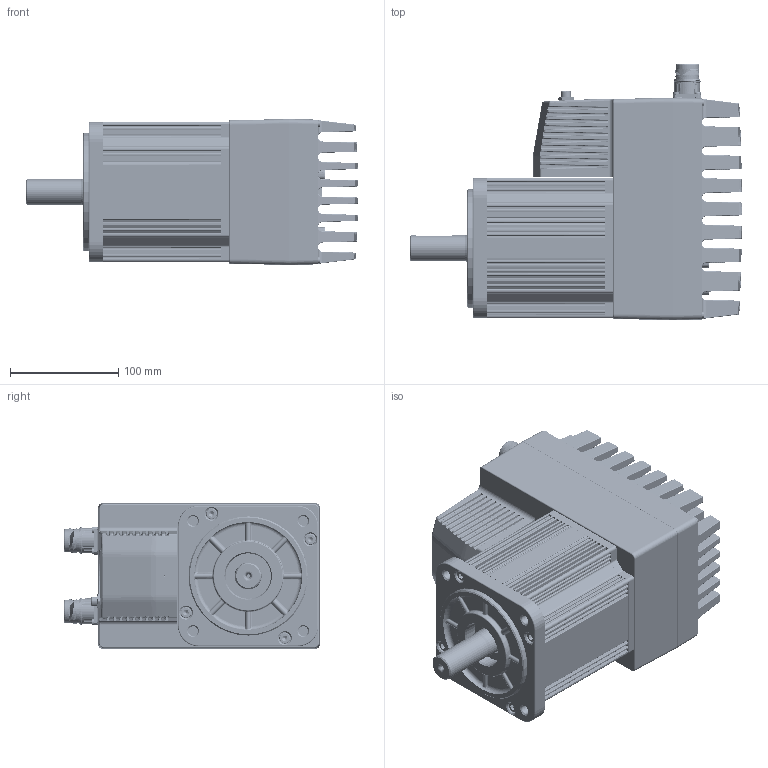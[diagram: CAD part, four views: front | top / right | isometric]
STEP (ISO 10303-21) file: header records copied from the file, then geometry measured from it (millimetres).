
FILE_DESCRIPTION((''),'2;1');
FILE_NAME('STEPPERASSY_ASM','2023-02-12T17:51:14',('Administrator'),(''),'CREO PARAMETRIC BY PTC INC, 2022014','CREO PARAMETRIC BY PTC INC, 2022014','');
FILE_SCHEMA(('AUTOMOTIVE_DESIGN { 1 0 10303 214 1 1 1 1 }'));
Products named in the file (9): BODY_1500; NEWFINSSA; CON_BOLT; STO_1500; CENT_1500N; 1500_D_FRNT; S24_NEW1; MAC_1500_4000_MOTORS_ASM; STEPPERASSY_ASM
Assembly tree (11 placements, depth 3):
  STEPPERASSY_ASM
    MAC_1500_4000_MOTORS_ASM
      BODY_1500
      NEWFINSSA
      CON_BOLT  x4
      STO_1500
      CENT_1500N
      1500_D_FRNT
      S24_NEW1
Bounding box: 307.28 x 236.95 x 134.99 mm (x, y, z)
Volume: 1299404.2 mm3; surface area: 603356.9 mm2
Topology: 93 solids, 95 shells, 5711 faces, 14577 edges, 8226 vertices
Faces by surface type: cylinder 1806, plane 1732, bspline 1218, sphere 420, cone 311, torus 169, extrusion 53, revolution 2
Entity records: 286911 total; most frequent: CARTESIAN_POINT 112277, ORIENTED_EDGE 27032, DIRECTION 23167, PRESENTATION_STYLE_ASSIGNMENT 14377, STYLED_ITEM 13551, CURVE_STYLE 13538, EDGE_CURVE 13516, AXIS2_PLACEMENT_3D 8701
